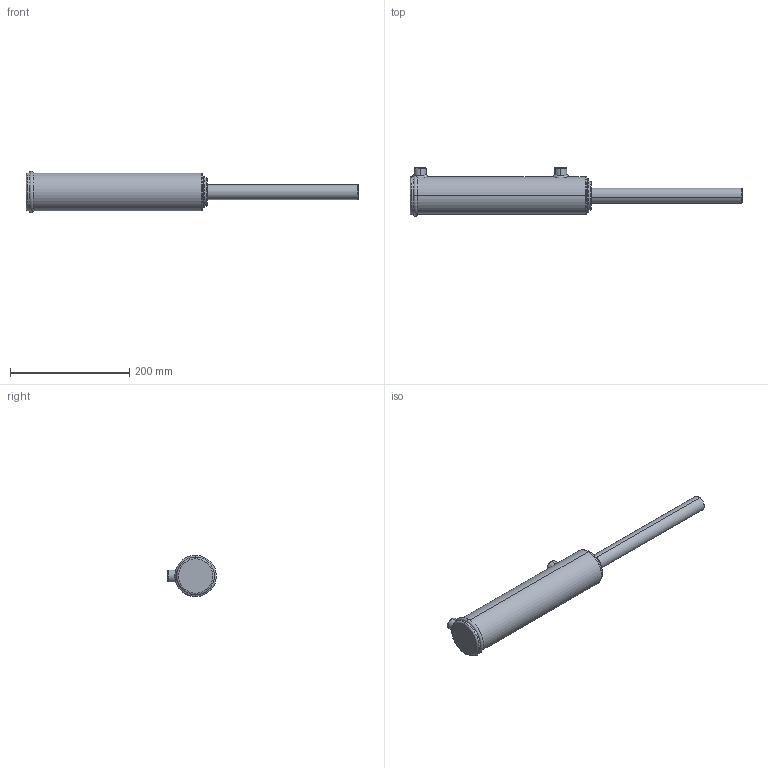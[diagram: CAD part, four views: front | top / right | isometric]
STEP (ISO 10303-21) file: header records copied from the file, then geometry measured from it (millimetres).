
FILE_DESCRIPTION (( 'STEP AP203' ), '1' );
FILE_NAME ('BL200100X203 (8) extended.STEP', '2014-11-23T20:51:59', ( '' ), ( '' ), 'SwSTEP 2.0', 'SolidWorks 2014', '' );
FILE_SCHEMA (( 'CONFIG_CONTROL_DESIGN' ));
Length unit declared in the file: millimetre
Products named in the file (3): BL body 2_2x8; Spare_2x6; BL200100X203 (8) extended
Assembly tree (2 placements, depth 2):
  BL200100X203 (8) extended
    BL body 2_2x8
    Spare_2x6
Bounding box: 557 x 81.5 x 69.5 mm (x, y, z)
Volume: 988241.9 mm3; surface area: 116079.9 mm2
Topology: 2 solids, 2 shells, 83 faces, 192 edges, 118 vertices
Faces by surface type: cylinder 31, plane 20, torus 17, cone 8, bspline 7
Entity records: 4855 total; most frequent: CARTESIAN_POINT 2688, DIRECTION 416, ORIENTED_EDGE 376, EDGE_CURVE 188, AXIS2_PLACEMENT_3D 179, VERTEX_POINT 118, CIRCLE 98, EDGE_LOOP 96
